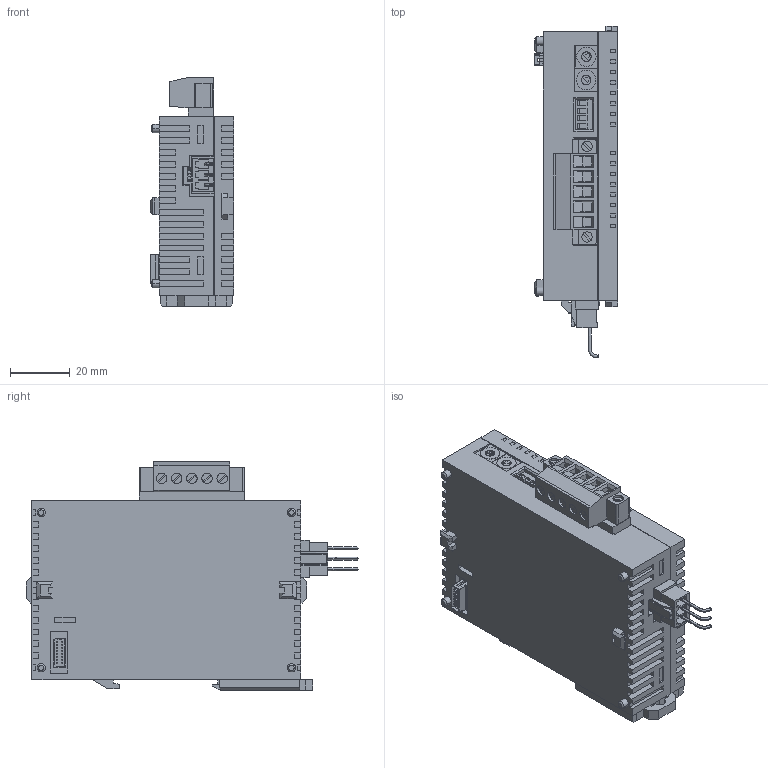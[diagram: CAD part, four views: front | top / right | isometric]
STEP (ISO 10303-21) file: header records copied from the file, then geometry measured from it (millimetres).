
FILE_DESCRIPTION (( 'STEP AP214' ), '1' );
FILE_NAME ('afp07943.stp', '2008-08-28T05:55:10', ( '' ), ( 'PanasonicElectricWorks' ), '', '', '' );
FILE_SCHEMA (( 'AUTOMOTIVE_DESIGN' ));
Length unit declared in the file: millimetre
Products named in the file (1): afp07943
Bounding box: 28 x 111.19 x 76.5 mm (x, y, z)
Volume: 139949.5 mm3; surface area: 26129.5 mm2
Topology: 1 solids, 4 shells, 996 faces, 2634 edges, 1722 vertices
Faces by surface type: plane 895, cylinder 65, bspline 28, cone 8
Entity records: 49570 total; most frequent: CARTESIAN_POINT 13909, ORIENTED_EDGE 5268, DIRECTION 4708, EDGE_CURVE 2634, VECTOR 2414, LINE 2414, VERTEX_POINT 1722, AXIS2_PLACEMENT_3D 1147
